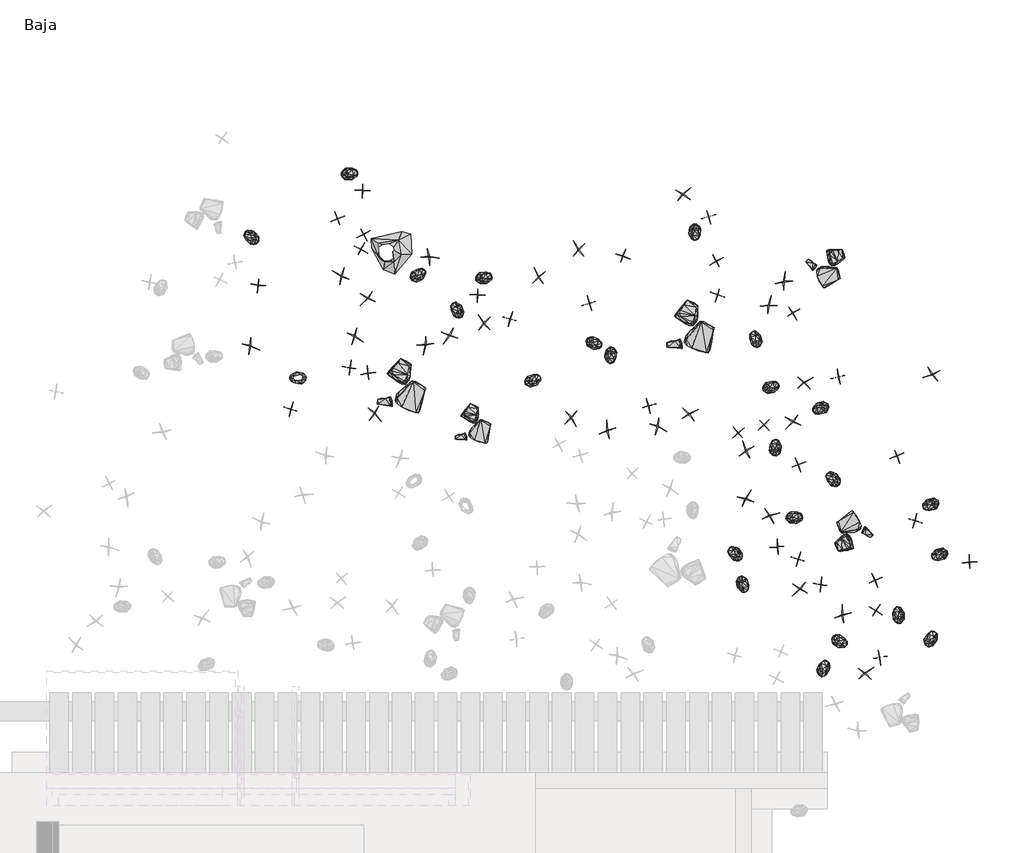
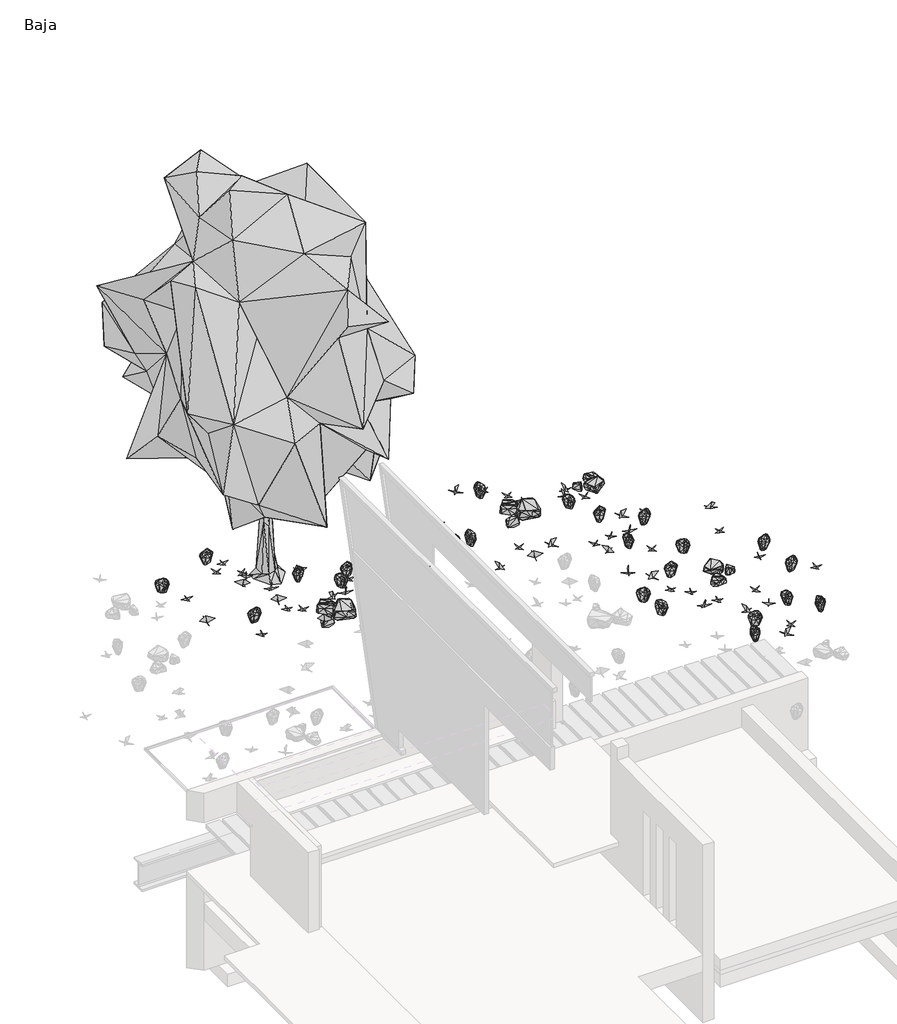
# One storey, part 7 of 7: 87 geographic elements.
"""IFC4 building model written with IfcOpenShell, lengths in millimetres."""

from ifc_helpers import new_model, si_unit, origin, place, context, project, spatial, transform, mapped, element, save
from components import enscape_assetdefinition_bush_025_fern_enscape_5718bf32, enscape_assetdefinition_bush_054_plant_09_version_2_enscape_7b546a12, enscape_assetdefinition_bush_062_plant_09_version_3_enscape_ccf8c8eb, enscape_assetdefinition_deciduous_tree_024_elm_enscape_8f9d8ef3, enscape_assetdefinition_stone_013_group_enscape_516da325, enscape_assetdefinition_stone_013_group_enscape_db9b3e91

model = new_model("IFC4")

# Units and contexts
model_context = context("Model", 3, world=origin())
ifc_project = project(units=[si_unit("LENGTHUNIT", "METRE", prefix="MILLI")], contexts=[model_context])

# Site, building, storey
site = spatial("IfcSite", under=ifc_project)
building = spatial("IfcBuilding", under=site)
storey = spatial("IfcBuildingStorey", under=building, Name="Baja", Elevation=0.0)

# Geographic elements
placement = place(None, origin())
enscape_assetdefinition_bush_025_fern_enscape_shape = enscape_assetdefinition_bush_025_fern_enscape_5718bf32(model_context)
element("IfcGeographicElement", 1, ObjectType="Enscape AssetDefinition - Bush 025 Fern : Enscape AssetDefinition - Bush 025 Fern", at=placement, inside=storey, context=model_context, shape_type="MappedRepresentation", body=[
    mapped(enscape_assetdefinition_bush_025_fern_enscape_shape, transform((220.1328129, 11293.4055328, 583.8238001), x_axis=(-0.8405395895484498, 0.5417501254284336, 0.0), y_axis=(-0.5417501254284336, -0.8405395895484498, 0.0), z_axis=(0.0, 0.0, 1.0))),
])
element("IfcGeographicElement", 2, ObjectType="Enscape AssetDefinition - Bush 025 Fern : Enscape AssetDefinition - Bush 025 Fern", at=placement, inside=storey, context=model_context, shape_type="MappedRepresentation", body=[
    mapped(enscape_assetdefinition_bush_025_fern_enscape_shape, transform((9427.5417328, 8515.3923035, 666.0774946), x_axis=(-0.8784411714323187, -0.47785050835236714, 0.0), y_axis=(0.47785050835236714, -0.8784411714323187, 0.0), z_axis=(0.0, 0.0, 1.0))),
])
element("IfcGeographicElement", 3, ObjectType="Enscape AssetDefinition - Bush 025 Fern : Enscape AssetDefinition - Bush 025 Fern", at=placement, inside=storey, context=model_context, shape_type="MappedRepresentation", body=[
    mapped(enscape_assetdefinition_bush_025_fern_enscape_shape, transform((11229.0744781, 4784.1949463, 257.4731708), x_axis=(0.3776345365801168, 0.9259547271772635, 0.0), y_axis=(-0.9259547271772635, 0.3776345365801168, 0.0), z_axis=(0.0, 0.0, 1.0))),
])
element("IfcGeographicElement", 4, ObjectType="Enscape AssetDefinition - Bush 025 Fern : Enscape AssetDefinition - Bush 025 Fern", at=placement, inside=storey, context=model_context, shape_type="MappedRepresentation", body=[
    mapped(enscape_assetdefinition_bush_025_fern_enscape_shape, transform((11354.5322418, 6146.5396881, 318.8729286), x_axis=(-0.895004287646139, -0.4460575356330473, 0.0), y_axis=(0.4460575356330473, -0.895004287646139, 0.0), z_axis=(0.0, 0.0, 1.0))),
])
element("IfcGeographicElement", 5, ObjectType="Enscape AssetDefinition - Bush 025 Fern : Enscape AssetDefinition - Bush 025 Fern", at=placement, inside=storey, context=model_context, shape_type="MappedRepresentation", body=[
    mapped(enscape_assetdefinition_bush_025_fern_enscape_shape, transform((9749.3457794, 4732.1205139, 441.0730004), x_axis=(0.9416270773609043, -0.33665775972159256, 0.0), y_axis=(0.33665775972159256, 0.9416270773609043, 0.0), z_axis=(0.0, 0.0, 1.0))),
])
element("IfcGeographicElement", 6, ObjectType="Enscape AssetDefinition - Bush 025 Fern : Enscape AssetDefinition - Bush 025 Fern", at=placement, inside=storey, context=model_context, shape_type="MappedRepresentation", body=[
    mapped(enscape_assetdefinition_bush_025_fern_enscape_shape, transform((5772.9167938, 9561.955452, 713.6212587), x_axis=(0.9704376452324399, -0.24135197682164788, 0.0), y_axis=(0.24135197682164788, 0.9704376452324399, 0.0), z_axis=(0.0, 0.0, 1.0))),
])
element("IfcGeographicElement", 7, ObjectType="Enscape AssetDefinition - Bush 025 Fern : Enscape AssetDefinition - Bush 025 Fern", at=placement, inside=storey, context=model_context, shape_type="MappedRepresentation", body=[
    mapped(enscape_assetdefinition_bush_025_fern_enscape_shape, transform((7395.257473, 11361.4759445, 279.3874145), x_axis=(0.12279797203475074, -0.9924316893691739, 0.0), y_axis=(0.9924316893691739, 0.12279797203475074, 0.0), z_axis=(0.0, 0.0, 1.0))),
])
element("IfcGeographicElement", 8, ObjectType="Enscape AssetDefinition - Bush 025 Fern : Enscape AssetDefinition - Bush 025 Fern", at=placement, inside=storey, context=model_context, shape_type="MappedRepresentation", body=[
    mapped(enscape_assetdefinition_bush_025_fern_enscape_shape, transform((8641.3593292, 8854.5331955, 814.4116402), x_axis=(0.9016803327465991, 0.43240325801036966, 0.0), y_axis=(-0.43240325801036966, 0.9016803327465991, 0.0), z_axis=(0.0, 0.0, 1.0))),
])
element("IfcGeographicElement", 9, ObjectType="Enscape AssetDefinition - Bush 025 Fern : Enscape AssetDefinition - Bush 025 Fern", at=placement, inside=storey, context=model_context, shape_type="MappedRepresentation", body=[
    mapped(enscape_assetdefinition_bush_025_fern_enscape_shape, transform((3994.9777126, 10624.2351532, 51.6854525), x_axis=(0.952647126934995, 0.3040780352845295, 0.0), y_axis=(-0.3040780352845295, 0.952647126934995, 0.0), z_axis=(0.0, 0.0, 1.0))),
])
element("IfcGeographicElement", 10, ObjectType="Enscape AssetDefinition - Bush 025 Fern : Enscape AssetDefinition - Bush 025 Fern", at=placement, inside=storey, context=model_context, shape_type="MappedRepresentation", body=[
    mapped(enscape_assetdefinition_bush_025_fern_enscape_shape, transform((1818.2258606, 12308.1331253, 97.2424746), x_axis=(0.9770707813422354, 0.21291474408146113, 0.0), y_axis=(-0.21291474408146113, 0.9770707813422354, 0.0), z_axis=(0.0, 0.0, 1.0))),
])
element("IfcGeographicElement", 11, ObjectType="Enscape AssetDefinition - Bush 025 Fern : Enscape AssetDefinition - Bush 025 Fern", at=placement, inside=storey, context=model_context, shape_type="MappedRepresentation", body=[
    mapped(enscape_assetdefinition_bush_025_fern_enscape_shape, transform((6035.5167389, 9367.2580719, 836.0227346), x_axis=(0.05514133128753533, -0.9984785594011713, 0.0), y_axis=(0.9984785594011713, 0.05514133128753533, 0.0), z_axis=(0.0, 0.0, 1.0))),
])
element("IfcGeographicElement", 12, ObjectType="Enscape AssetDefinition - Bush 025 Fern : Enscape AssetDefinition - Bush 025 Fern", at=placement, inside=storey, context=model_context, shape_type="MappedRepresentation", body=[
    mapped(enscape_assetdefinition_bush_025_fern_enscape_shape, transform((9018.5718536, 6742.0229912, 647.1215487), x_axis=(0.9835431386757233, 0.18067344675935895, 0.0), y_axis=(-0.18067344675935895, 0.9835431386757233, 0.0), z_axis=(0.0, 0.0, 1.0))),
])
element("IfcGeographicElement", 13, ObjectType="Enscape AssetDefinition - Bush 025 Fern : Enscape AssetDefinition - Bush 025 Fern", at=placement, inside=storey, context=model_context, shape_type="MappedRepresentation", body=[
    mapped(enscape_assetdefinition_bush_025_fern_enscape_shape, transform((9636.7206573, 7376.8148422, 605.1700711), x_axis=(-0.7810224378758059, 0.6245029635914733, 0.0), y_axis=(-0.6245029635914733, -0.7810224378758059, 0.0), z_axis=(0.0, 0.0, 1.0))),
])
element("IfcGeographicElement", 14, ObjectType="Enscape AssetDefinition - Bush 025 Fern : Enscape AssetDefinition - Bush 025 Fern", at=placement, inside=storey, context=model_context, shape_type="MappedRepresentation", body=[
    mapped(enscape_assetdefinition_bush_025_fern_enscape_shape, transform((10700.0789642, 5173.2621193, 346.2161422), x_axis=(-0.26639460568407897, 0.9638640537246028, 0.0), y_axis=(-0.9638640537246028, -0.26639460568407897, 0.0), z_axis=(0.0, 0.0, 1.0))),
])
element("IfcGeographicElement", 15, ObjectType="Enscape AssetDefinition - Bush 025 Fern : Enscape AssetDefinition - Bush 025 Fern", at=placement, inside=storey, context=model_context, shape_type="MappedRepresentation", body=[
    mapped(enscape_assetdefinition_bush_025_fern_enscape_shape, transform((8387.0029449, 9643.0416107, 728.2055616), x_axis=(-0.48038722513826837, 0.8770565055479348, 0.0), y_axis=(-0.8770565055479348, -0.48038722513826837, 0.0), z_axis=(0.0, 0.0, 1.0))),
])
element("IfcGeographicElement", 16, ObjectType="Enscape AssetDefinition - Bush 025 Fern : Enscape AssetDefinition - Bush 025 Fern", at=placement, inside=storey, context=model_context, shape_type="MappedRepresentation", body=[
    mapped(enscape_assetdefinition_bush_025_fern_enscape_shape, transform((4785.9745026, 8966.6624069, 789.6940112), x_axis=(0.8663648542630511, 0.499411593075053, 0.0), y_axis=(-0.499411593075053, 0.8663648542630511, 0.0), z_axis=(0.0, 0.0, 1.0))),
])
element("IfcGeographicElement", 17, ObjectType="Enscape AssetDefinition - Bush 025 Fern : Enscape AssetDefinition - Bush 025 Fern", at=placement, inside=storey, context=model_context, shape_type="MappedRepresentation", body=[
    mapped(enscape_assetdefinition_bush_025_fern_enscape_shape, transform((3551.8057346, 10113.2421494, 259.1606975), x_axis=(-0.5973290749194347, 0.8019962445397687, 0.0), y_axis=(-0.8019962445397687, -0.5973290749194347, 0.0), z_axis=(0.0, 0.0, 1.0))),
])
element("IfcGeographicElement", 18, ObjectType="Enscape AssetDefinition - Bush 025 Fern : Enscape AssetDefinition - Bush 025 Fern", at=placement, inside=storey, context=model_context, shape_type="MappedRepresentation", body=[
    mapped(enscape_assetdefinition_bush_025_fern_enscape_shape, transform((9491.850853, 4306.0994148, 449.3893981), x_axis=(0.2594705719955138, 0.9657510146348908, 0.0), y_axis=(-0.9657510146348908, 0.2594705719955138, 0.0), z_axis=(0.0, 0.0, 1.0))),
])
element("IfcGeographicElement", 19, ObjectType="Enscape AssetDefinition - Bush 025 Fern : Enscape AssetDefinition - Bush 025 Fern", at=placement, inside=storey, context=model_context, shape_type="MappedRepresentation", body=[
    mapped(enscape_assetdefinition_bush_025_fern_enscape_shape, transform((2930.8490753, 10674.8609543, 295.1474786), x_axis=(0.7537706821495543, 0.657137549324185, 0.0), y_axis=(-0.657137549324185, 0.7537706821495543, 0.0), z_axis=(0.0, 0.0, 1.0))),
])
element("IfcGeographicElement", 20, ObjectType="Enscape AssetDefinition - Bush 025 Fern : Enscape AssetDefinition - Bush 025 Fern", at=placement, inside=storey, context=model_context, shape_type="MappedRepresentation", body=[
    mapped(enscape_assetdefinition_bush_025_fern_enscape_shape, transform((11210.3099823, 6956.7184448, 382.9751611), x_axis=(-0.8839982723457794, -0.4674901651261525, 0.0), y_axis=(0.4674901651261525, -0.8839982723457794, 0.0), z_axis=(0.0, 0.0, 1.0))),
])
element("IfcGeographicElement", 21, ObjectType="Enscape AssetDefinition - Bush 025 Fern : Enscape AssetDefinition - Bush 025 Fern", at=placement, inside=storey, context=model_context, shape_type="MappedRepresentation", body=[
    mapped(enscape_assetdefinition_bush_025_fern_enscape_shape, transform((8708.2881927, 7883.6064339, 750.9428859), x_axis=(-0.06104136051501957, 0.9981352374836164, 0.0), y_axis=(-0.9981352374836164, -0.06104136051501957, 0.0), z_axis=(0.0, 0.0, 1.0))),
])
element("IfcGeographicElement", 22, ObjectType="Enscape AssetDefinition - Bush 025 Fern : Enscape AssetDefinition - Bush 025 Fern", at=placement, inside=storey, context=model_context, shape_type="MappedRepresentation", body=[
    mapped(enscape_assetdefinition_bush_025_fern_enscape_shape, transform((968.3990479, 9008.2073212, 999.9998808), x_axis=(-0.9919673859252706, -0.12649389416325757, 0.0), y_axis=(0.12649389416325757, -0.9919673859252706, 0.0), z_axis=(0.0, 0.0, 1.0))),
])
element("IfcGeographicElement", 23, ObjectType="Enscape AssetDefinition - Bush 025 Fern : Enscape AssetDefinition - Bush 025 Fern", at=placement, inside=storey, context=model_context, shape_type="MappedRepresentation", body=[
    mapped(enscape_assetdefinition_bush_025_fern_enscape_shape, transform((8174.6454239, 5653.7284851, 691.8329), x_axis=(0.4763455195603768, -0.8792581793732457, 0.0), y_axis=(0.8792581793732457, 0.4763455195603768, 0.0), z_axis=(0.0, 0.0, 1.0))),
])
element("IfcGeographicElement", 24, ObjectType="Enscape AssetDefinition - Bush 025 Fern : Enscape AssetDefinition - Bush 025 Fern", at=placement, inside=storey, context=model_context, shape_type="MappedRepresentation", body=[
    mapped(enscape_assetdefinition_bush_025_fern_enscape_shape, transform((8050.8556366, 6168.050766, 736.5906835), x_axis=(-0.7989668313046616, 0.6013750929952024, 0.0), y_axis=(-0.6013750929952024, -0.7989668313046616, 0.0), z_axis=(0.0, 0.0, 1.0))),
])
enscape_assetdefinition_bush_054_plant_09_version_2_enscape_shape = enscape_assetdefinition_bush_054_plant_09_version_2_enscape_7b546a12(model_context)
element("IfcGeographicElement", 25, ObjectType="Enscape AssetDefinition - Bush 054 Plant 09, Version 2 : Enscape AssetDefinition - Bush 054 Plant 09, Version 2", at=placement, inside=storey, context=model_context, shape_type="MappedRepresentation", body=[
    mapped(enscape_assetdefinition_bush_054_plant_09_version_2_enscape_shape, transform((2026.4930725, 12039.3590927, 132.2808862), x_axis=(-0.01600050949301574, 0.9998719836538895, 0.0), y_axis=(-0.9998719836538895, -0.01600050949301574, 0.0), z_axis=(0.0, 0.0, 1.0))),
])
element("IfcGeographicElement", 26, ObjectType="Enscape AssetDefinition - Bush 054 Plant 09, Version 2 : Enscape AssetDefinition - Bush 054 Plant 09, Version 2", at=placement, inside=storey, context=model_context, shape_type="MappedRepresentation", body=[
    mapped(enscape_assetdefinition_bush_054_plant_09_version_2_enscape_shape, transform((6652.7686119, 8559.5407486, 999.9999404), x_axis=(-0.9509313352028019, -0.3094019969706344, 0.0), y_axis=(0.3094019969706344, -0.9509313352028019, 0.0), z_axis=(0.0, 0.0, 1.0))),
])
element("IfcGeographicElement", 27, ObjectType="Enscape AssetDefinition - Bush 054 Plant 09, Version 2 : Enscape AssetDefinition - Bush 054 Plant 09, Version 2", at=placement, inside=storey, context=model_context, shape_type="MappedRepresentation", body=[
    mapped(enscape_assetdefinition_bush_054_plant_09_version_2_enscape_shape, transform((1994.5297241, 11093.4152603, 405.9939384), x_axis=(-0.4157669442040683, -0.909471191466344, 0.0), y_axis=(0.909471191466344, -0.4157669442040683, 0.0), z_axis=(0.0, 0.0, 1.0))),
])
element("IfcGeographicElement", 28, ObjectType="Enscape AssetDefinition - Bush 054 Plant 09, Version 2 : Enscape AssetDefinition - Bush 054 Plant 09, Version 2", at=placement, inside=storey, context=model_context, shape_type="MappedRepresentation", body=[
    mapped(enscape_assetdefinition_bush_054_plant_09_version_2_enscape_shape, transform((10330.7361603, 5240.5452728, 396.5933323), x_axis=(-0.4859771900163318, -0.8739714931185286, 0.0), y_axis=(0.8739714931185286, -0.4859771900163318, 0.0), z_axis=(0.0, 0.0, 1.0))),
])
element("IfcGeographicElement", 29, ObjectType="Enscape AssetDefinition - Bush 054 Plant 09, Version 2 : Enscape AssetDefinition - Bush 054 Plant 09, Version 2", at=placement, inside=storey, context=model_context, shape_type="MappedRepresentation", body=[
    mapped(enscape_assetdefinition_bush_054_plant_09_version_2_enscape_shape, transform((4407.6213837, 9956.6755295, 326.7164826), x_axis=(0.9749458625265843, -0.22244227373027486, 0.0), y_axis=(0.22244227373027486, 0.9749458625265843, 0.0), z_axis=(0.0, 0.0, 1.0))),
])
element("IfcGeographicElement", 30, ObjectType="Enscape AssetDefinition - Bush 054 Plant 09, Version 2 : Enscape AssetDefinition - Bush 054 Plant 09, Version 2", at=placement, inside=storey, context=model_context, shape_type="MappedRepresentation", body=[
    mapped(enscape_assetdefinition_bush_054_plant_09_version_2_enscape_shape, transform((8096.075058, 8115.691185, 841.2796855), x_axis=(0.6934244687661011, -0.7205293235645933, 0.0), y_axis=(0.7205293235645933, 0.6934244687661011, 0.0), z_axis=(0.0, 0.0, 1.0))),
])
element("IfcGeographicElement", 31, ObjectType="Enscape AssetDefinition - Bush 054 Plant 09, Version 2 : Enscape AssetDefinition - Bush 054 Plant 09, Version 2", at=placement, inside=storey, context=model_context, shape_type="MappedRepresentation", body=[
    mapped(enscape_assetdefinition_bush_054_plant_09_version_2_enscape_shape, transform((9072.4544525, 6064.6076202, 601.9331813), x_axis=(0.9710745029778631, -0.23877669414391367, 0.0), y_axis=(0.23877669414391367, 0.9710745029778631, 0.0), z_axis=(0.0, 0.0, 1.0))),
])
element("IfcGeographicElement", 32, ObjectType="Enscape AssetDefinition - Bush 054 Plant 09, Version 2 : Enscape AssetDefinition - Bush 054 Plant 09, Version 2", at=placement, inside=storey, context=model_context, shape_type="MappedRepresentation", body=[
    mapped(enscape_assetdefinition_bush_054_plant_09_version_2_enscape_shape, transform((10397.2644806, 4481.9431305, 345.2092409), x_axis=(-0.974047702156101, -0.22634282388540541, 0.0), y_axis=(0.22634282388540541, -0.974047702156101, 0.0), z_axis=(0.0, 0.0, 1.0))),
])
element("IfcGeographicElement", 33, ObjectType="Enscape AssetDefinition - Bush 054 Plant 09, Version 2 : Enscape AssetDefinition - Bush 054 Plant 09, Version 2", at=placement, inside=storey, context=model_context, shape_type="MappedRepresentation", body=[
    mapped(enscape_assetdefinition_bush_054_plant_09_version_2_enscape_shape, transform((3889.0476227, 10345.7765579, 132.4433684), x_axis=(4.1842463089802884e-05, 0.9999999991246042, 0.0), y_axis=(-0.9999999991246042, 4.1842463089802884e-05, 0.0), z_axis=(0.0, 0.0, 1.0))),
])
element("IfcGeographicElement", 34, ObjectType="Enscape AssetDefinition - Bush 054 Plant 09, Version 2 : Enscape AssetDefinition - Bush 054 Plant 09, Version 2", at=placement, inside=storey, context=model_context, shape_type="MappedRepresentation", body=[
    mapped(enscape_assetdefinition_bush_054_plant_09_version_2_enscape_shape, transform((11846.7884064, 6025.7663727, 249.9682307), x_axis=(0.10038709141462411, -0.9949484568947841, 0.0), y_axis=(0.9949484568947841, 0.10038709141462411, 0.0), z_axis=(0.0, 0.0, 1.0))),
])
element("IfcGeographicElement", 35, ObjectType="Enscape AssetDefinition - Bush 054 Plant 09, Version 2 : Enscape AssetDefinition - Bush 054 Plant 09, Version 2", at=placement, inside=storey, context=model_context, shape_type="MappedRepresentation", body=[
    mapped(enscape_assetdefinition_bush_054_plant_09_version_2_enscape_shape, transform((8734.9758148, 6267.3358917, 655.970037), x_axis=(0.9927741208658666, 0.11999810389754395, 0.0), y_axis=(-0.11999810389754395, 0.9927741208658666, 0.0), z_axis=(0.0, 0.0, 1.0))),
])
element("IfcGeographicElement", 36, ObjectType="Enscape AssetDefinition - Bush 054 Plant 09, Version 2 : Enscape AssetDefinition - Bush 054 Plant 09, Version 2", at=placement, inside=storey, context=model_context, shape_type="MappedRepresentation", body=[
    mapped(enscape_assetdefinition_bush_054_plant_09_version_2_enscape_shape, transform((6233.8275909, 10982.6440811, 243.5685396), x_axis=(-0.2827353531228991, -0.959197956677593, 0.0), y_axis=(0.959197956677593, -0.2827353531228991, 0.0), z_axis=(0.0, 0.0, 1.0))),
])
element("IfcGeographicElement", 37, ObjectType="Enscape AssetDefinition - Bush 054 Plant 09, Version 2 : Enscape AssetDefinition - Bush 054 Plant 09, Version 2", at=placement, inside=storey, context=model_context, shape_type="MappedRepresentation", body=[
    mapped(enscape_assetdefinition_bush_054_plant_09_version_2_enscape_shape, transform((2043.5256958, 11331.1777115, 329.1426897), x_axis=(-0.5219727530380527, 0.8529621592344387, 0.0), y_axis=(-0.8529621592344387, -0.5219727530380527, 0.0), z_axis=(0.0, 0.0, 1.0))),
])
element("IfcGeographicElement", 38, ObjectType="Enscape AssetDefinition - Bush 054 Plant 09, Version 2 : Enscape AssetDefinition - Bush 054 Plant 09, Version 2", at=placement, inside=storey, context=model_context, shape_type="MappedRepresentation", body=[
    mapped(enscape_assetdefinition_bush_054_plant_09_version_2_enscape_shape, transform((1612.1063232, 11587.0428085, 341.6267633), x_axis=(0.42051440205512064, -0.9072858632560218, 0.0), y_axis=(0.9072858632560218, 0.42051440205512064, 0.0), z_axis=(0.0, 0.0, 1.0))),
])
element("IfcGeographicElement", 39, ObjectType="Enscape AssetDefinition - Bush 054 Plant 09, Version 2 : Enscape AssetDefinition - Bush 054 Plant 09, Version 2", at=placement, inside=storey, context=model_context, shape_type="MappedRepresentation", body=[
    mapped(enscape_assetdefinition_bush_054_plant_09_version_2_enscape_shape, transform((9725.4390717, 9021.0523605, 477.8280854), x_axis=(0.962913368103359, 0.26981075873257, 0.0), y_axis=(-0.26981075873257, 0.962913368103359, 0.0), z_axis=(0.0, 0.0, 1.0))),
])
element("IfcGeographicElement", 40, ObjectType="Enscape AssetDefinition - Bush 054 Plant 09, Version 2 : Enscape AssetDefinition - Bush 054 Plant 09, Version 2", at=placement, inside=storey, context=model_context, shape_type="MappedRepresentation", body=[
    mapped(enscape_assetdefinition_bush_054_plant_09_version_2_enscape_shape, transform((7744.0085411, 10897.4075317, 416.4552689), x_axis=(0.5362581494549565, -0.8440540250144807, 0.0), y_axis=(0.8440540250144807, 0.5362581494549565, 0.0), z_axis=(0.0, 0.0, 1.0))),
])
element("IfcGeographicElement", 41, ObjectType="Enscape AssetDefinition - Bush 054 Plant 09, Version 2 : Enscape AssetDefinition - Bush 054 Plant 09, Version 2", at=placement, inside=storey, context=model_context, shape_type="MappedRepresentation", body=[
    mapped(enscape_assetdefinition_bush_054_plant_09_version_2_enscape_shape, transform((859.5542908, 8496.8891144, 999.9998808), x_axis=(0.9771434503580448, -0.21258099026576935, 0.0), y_axis=(0.21258099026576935, 0.9771434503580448, 0.0), z_axis=(0.0, 0.0, 1.0))),
])
element("IfcGeographicElement", 42, ObjectType="Enscape AssetDefinition - Bush 054 Plant 09, Version 2 : Enscape AssetDefinition - Bush 054 Plant 09, Version 2", at=placement, inside=storey, context=model_context, shape_type="MappedRepresentation", body=[
    mapped(enscape_assetdefinition_bush_054_plant_09_version_2_enscape_shape, transform((336.5935981, 10504.3020248, 810.2988601), x_axis=(0.05592477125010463, 0.9984349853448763, 0.0), y_axis=(-0.9984349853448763, 0.05592477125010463, 0.0), z_axis=(0.0, 0.0, 1.0))),
])
element("IfcGeographicElement", 43, ObjectType="Enscape AssetDefinition - Bush 054 Plant 09, Version 2 : Enscape AssetDefinition - Bush 054 Plant 09, Version 2", at=placement, inside=storey, context=model_context, shape_type="MappedRepresentation", body=[
    mapped(enscape_assetdefinition_bush_054_plant_09_version_2_enscape_shape, transform((10967.5693512, 6696.7639923, 398.8438249), x_axis=(-0.9804457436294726, 0.19678959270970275, 0.0), y_axis=(-0.19678959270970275, -0.9804457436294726, 0.0), z_axis=(0.0, 0.0, 1.0))),
])
element("IfcGeographicElement", 44, ObjectType="Enscape AssetDefinition - Bush 054 Plant 09, Version 2 : Enscape AssetDefinition - Bush 054 Plant 09, Version 2", at=placement, inside=storey, context=model_context, shape_type="MappedRepresentation", body=[
    mapped(enscape_assetdefinition_bush_054_plant_09_version_2_enscape_shape, transform((10678.3618927, 7739.4752502, 472.1381664), x_axis=(-0.40059887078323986, 0.9162535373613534, 0.0), y_axis=(-0.9162535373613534, -0.40059887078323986, 0.0), z_axis=(0.0, 0.0, 1.0))),
])
element("IfcGeographicElement", 45, ObjectType="Enscape AssetDefinition - Bush 054 Plant 09, Version 2 : Enscape AssetDefinition - Bush 054 Plant 09, Version 2", at=placement, inside=storey, context=model_context, shape_type="MappedRepresentation", body=[
    mapped(enscape_assetdefinition_bush_054_plant_09_version_2_enscape_shape, transform((5688.9476776, 10210.6952667, 437.5537038), x_axis=(0.9391104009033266, 0.34361556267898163, 0.0), y_axis=(-0.34361556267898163, 0.9391104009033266, 0.0), z_axis=(0.0, 0.0, 1.0))),
])
element("IfcGeographicElement", 46, ObjectType="Enscape AssetDefinition - Bush 054 Plant 09, Version 2 : Enscape AssetDefinition - Bush 054 Plant 09, Version 2", at=placement, inside=storey, context=model_context, shape_type="MappedRepresentation", body=[
    mapped(enscape_assetdefinition_bush_054_plant_09_version_2_enscape_shape, transform((9437.9549026, 5656.375885, 532.7159762), x_axis=(0.9981202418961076, -0.061286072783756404, 0.0), y_axis=(0.061286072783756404, 0.9981202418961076, 0.0), z_axis=(0.0, 0.0, 1.0))),
])
element("IfcGeographicElement", 47, ObjectType="Enscape AssetDefinition - Bush 054 Plant 09, Version 2 : Enscape AssetDefinition - Bush 054 Plant 09, Version 2", at=placement, inside=storey, context=model_context, shape_type="MappedRepresentation", body=[
    mapped(enscape_assetdefinition_bush_054_plant_09_version_2_enscape_shape, transform((8988.6035919, 10060.4104996, 472.270906), x_axis=(-0.8314307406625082, -0.5556284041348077, 0.0), y_axis=(0.5556284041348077, -0.8314307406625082, 0.0), z_axis=(0.0, 0.0, 1.0))),
])
element("IfcGeographicElement", 48, ObjectType="Enscape AssetDefinition - Bush 054 Plant 09, Version 2 : Enscape AssetDefinition - Bush 054 Plant 09, Version 2", at=placement, inside=storey, context=model_context, shape_type="MappedRepresentation", body=[
    mapped(enscape_assetdefinition_bush_054_plant_09_version_2_enscape_shape, transform((1813.5566711, 9170.1478958, 861.3690138), x_axis=(0.997037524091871, -0.07691667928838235, 0.0), y_axis=(0.07691667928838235, 0.997037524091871, 0.0), z_axis=(0.0, 0.0, 1.0))),
])
element("IfcGeographicElement", 49, ObjectType="Enscape AssetDefinition - Bush 054 Plant 09, Version 2 : Enscape AssetDefinition - Bush 054 Plant 09, Version 2", at=placement, inside=storey, context=model_context, shape_type="MappedRepresentation", body=[
    mapped(enscape_assetdefinition_bush_054_plant_09_version_2_enscape_shape, transform((2108.9305878, 9082.0465088, 808.5536957), x_axis=(0.16273891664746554, -0.9866691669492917, 0.0), y_axis=(0.9866691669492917, 0.16273891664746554, 0.0), z_axis=(0.0, 0.0, 1.0))),
])
element("IfcGeographicElement", 50, ObjectType="Enscape AssetDefinition - Bush 054 Plant 09, Version 2 : Enscape AssetDefinition - Bush 054 Plant 09, Version 2", at=placement, inside=storey, context=model_context, shape_type="MappedRepresentation", body=[
    mapped(enscape_assetdefinition_bush_054_plant_09_version_2_enscape_shape, transform((7771.3265419, 10345.8881378, 637.1003389), x_axis=(0.2631869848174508, 0.9647448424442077, 0.0), y_axis=(-0.9647448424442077, 0.2631869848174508, 0.0), z_axis=(0.0, 0.0, 1.0))),
])
element("IfcGeographicElement", 51, ObjectType="Enscape AssetDefinition - Bush 054 Plant 09, Version 2 : Enscape AssetDefinition - Bush 054 Plant 09, Version 2", at=placement, inside=storey, context=model_context, shape_type="MappedRepresentation", body=[
    mapped(enscape_assetdefinition_bush_054_plant_09_version_2_enscape_shape, transform((7627.7756691, 11617.1293259, 140.5382752), x_axis=(-0.3168847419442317, 0.9484640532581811, 0.0), y_axis=(-0.9484640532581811, -0.3168847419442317, 0.0), z_axis=(0.0, 0.0, 1.0))),
])
element("IfcGeographicElement", 52, ObjectType="Enscape AssetDefinition - Bush 054 Plant 09, Version 2 : Enscape AssetDefinition - Bush 054 Plant 09, Version 2", at=placement, inside=storey, context=model_context, shape_type="MappedRepresentation", body=[
    mapped(enscape_assetdefinition_bush_054_plant_09_version_2_enscape_shape, transform((8525.4802704, 8246.4990616, 794.557929), x_axis=(-0.7239908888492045, 0.6898095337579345, 0.0), y_axis=(-0.6898095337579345, -0.7239908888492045, 0.0), z_axis=(0.0, 0.0, 1.0))),
])
element("IfcGeographicElement", 53, ObjectType="Enscape AssetDefinition - Bush 054 Plant 09, Version 2 : Enscape AssetDefinition - Bush 054 Plant 09, Version 2", at=placement, inside=storey, context=model_context, shape_type="MappedRepresentation", body=[
    mapped(enscape_assetdefinition_bush_054_plant_09_version_2_enscape_shape, transform((10318.6168671, 5733.0260277, 426.0343909), x_axis=(-0.9000136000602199, -0.4358618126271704, 0.0), y_axis=(0.4358618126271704, -0.9000136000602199, 0.0), z_axis=(0.0, 0.0, 1.0))),
])
element("IfcGeographicElement", 54, ObjectType="Enscape AssetDefinition - Bush 054 Plant 09, Version 2 : Enscape AssetDefinition - Bush 054 Plant 09, Version 2", at=placement, inside=storey, context=model_context, shape_type="MappedRepresentation", body=[
    mapped(enscape_assetdefinition_bush_054_plant_09_version_2_enscape_shape, transform((9076.543808, 7606.0676575, 688.7859106), x_axis=(-0.9171267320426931, -0.3985957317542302, 0.0), y_axis=(0.3985957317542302, -0.9171267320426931, 0.0), z_axis=(0.0, 0.0, 1.0))),
])
enscape_assetdefinition_bush_062_plant_09_version_3_enscape_shape = enscape_assetdefinition_bush_062_plant_09_version_3_enscape_ccf8c8eb(model_context)
element("IfcGeographicElement", 55, ObjectType="Enscape AssetDefinition - Bush 062 Plant 09, Version 3 : Enscape AssetDefinition - Bush 062 Plant 09, Version 3", at=placement, inside=storey, context=model_context, shape_type="MappedRepresentation", body=[
    mapped(enscape_assetdefinition_bush_062_plant_09_version_3_enscape_shape, transform((7313.4479523, 8428.1101227, 925.167501), x_axis=(0.7310181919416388, -0.6823579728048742, 0.0), y_axis=(0.6823579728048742, 0.7310181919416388, 0.0), z_axis=(0.0, 0.0, 1.0))),
])
element("IfcGeographicElement", 56, ObjectType="Enscape AssetDefinition - Bush 062 Plant 09, Version 3 : Enscape AssetDefinition - Bush 062 Plant 09, Version 3", at=placement, inside=storey, context=model_context, shape_type="MappedRepresentation", body=[
    mapped(enscape_assetdefinition_bush_062_plant_09_version_3_enscape_shape, transform((2227.0262241, 8425.2281189, 911.3663435), x_axis=(-0.4534554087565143, -0.8912789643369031, 0.0), y_axis=(0.8912789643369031, -0.4534554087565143, 0.0), z_axis=(0.0, 0.0, 1.0))),
])
element("IfcGeographicElement", 57, ObjectType="Enscape AssetDefinition - Bush 062 Plant 09, Version 3 : Enscape AssetDefinition - Bush 062 Plant 09, Version 3", at=placement, inside=storey, context=model_context, shape_type="MappedRepresentation", body=[
    mapped(enscape_assetdefinition_bush_062_plant_09_version_3_enscape_shape, transform((8838.4952545, 10575.0923157, 384.5335245), x_axis=(0.9681846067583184, 0.2502370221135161, 0.0), y_axis=(-0.2502370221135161, 0.9681846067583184, 0.0), z_axis=(0.0, 0.0, 1.0))),
])
element("IfcGeographicElement", 58, ObjectType="Enscape AssetDefinition - Bush 062 Plant 09, Version 3 : Enscape AssetDefinition - Bush 062 Plant 09, Version 3", at=placement, inside=storey, context=model_context, shape_type="MappedRepresentation", body=[
    mapped(enscape_assetdefinition_bush_062_plant_09_version_3_enscape_shape, transform((213.26828, 9521.3623047, 927.5824428), x_axis=(-0.010435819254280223, -0.9999455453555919, 0.0), y_axis=(0.9999455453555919, -0.010435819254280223, 0.0), z_axis=(0.0, 0.0, 1.0))),
])
element("IfcGeographicElement", 59, ObjectType="Enscape AssetDefinition - Bush 062 Plant 09, Version 3 : Enscape AssetDefinition - Bush 062 Plant 09, Version 3", at=placement, inside=storey, context=model_context, shape_type="MappedRepresentation", body=[
    mapped(enscape_assetdefinition_bush_062_plant_09_version_3_enscape_shape, transform((4863.69133, 10649.1708755, 122.9373217), x_axis=(0.6667830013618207, 0.7452519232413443, 0.0), y_axis=(-0.7452519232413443, 0.6667830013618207, 0.0), z_axis=(0.0, 0.0, 1.0))),
])
element("IfcGeographicElement", 60, ObjectType="Enscape AssetDefinition - Bush 062 Plant 09, Version 3 : Enscape AssetDefinition - Bush 062 Plant 09, Version 3", at=placement, inside=storey, context=model_context, shape_type="MappedRepresentation", body=[
    mapped(enscape_assetdefinition_bush_062_plant_09_version_3_enscape_shape, transform((10161.8518829, 4230.2627563, 360.6230021), x_axis=(0.8244267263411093, -0.5659687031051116, 0.0), y_axis=(0.5659687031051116, 0.8244267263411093, 0.0), z_axis=(0.0, 0.0, 1.0))),
])
element("IfcGeographicElement", 61, ObjectType="Enscape AssetDefinition - Bush 062 Plant 09, Version 3 : Enscape AssetDefinition - Bush 062 Plant 09, Version 3", at=placement, inside=storey, context=model_context, shape_type="MappedRepresentation", body=[
    mapped(enscape_assetdefinition_bush_062_plant_09_version_3_enscape_shape, transform((3041.135788, 9531.50177, 496.8237281), x_axis=(-0.981404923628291, -0.19194888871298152, 0.0), y_axis=(0.19194888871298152, -0.981404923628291, 0.0), z_axis=(0.0, 0.0, 1.0))),
])
element("IfcGeographicElement", 62, ObjectType="Enscape AssetDefinition - Bush 062 Plant 09, Version 3 : Enscape AssetDefinition - Bush 062 Plant 09, Version 3", at=placement, inside=storey, context=model_context, shape_type="MappedRepresentation", body=[
    mapped(enscape_assetdefinition_bush_062_plant_09_version_3_enscape_shape, transform((9788.8011932, 5180.9864044, 461.5399837), x_axis=(0.9199700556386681, 0.3919886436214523, 0.0), y_axis=(-0.3919886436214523, 0.9199700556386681, 0.0), z_axis=(0.0, 0.0, 1.0))),
])
element("IfcGeographicElement", 63, ObjectType="Enscape AssetDefinition - Bush 062 Plant 09, Version 3 : Enscape AssetDefinition - Bush 062 Plant 09, Version 3", at=placement, inside=storey, context=model_context, shape_type="MappedRepresentation", body=[
    mapped(enscape_assetdefinition_bush_062_plant_09_version_3_enscape_shape, transform((3978.6396027, 9899.5094299, 278.3461213), x_axis=(0.566838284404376, 0.8238290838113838, 0.0), y_axis=(-0.8238290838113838, 0.566838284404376, 0.0), z_axis=(0.0, 0.0, 1.0))),
])
element("IfcGeographicElement", 64, ObjectType="Enscape AssetDefinition - Bush 062 Plant 09, Version 3 : Enscape AssetDefinition - Bush 062 Plant 09, Version 3", at=placement, inside=storey, context=model_context, shape_type="MappedRepresentation", body=[
    mapped(enscape_assetdefinition_bush_062_plant_09_version_3_enscape_shape, transform((8984.1327667, 8289.1759872, 739.1540408), x_axis=(-0.926807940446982, 0.37553567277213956, 0.0), y_axis=(-0.37553567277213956, -0.926807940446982, 0.0), z_axis=(0.0, 0.0, 1.0))),
])
element("IfcGeographicElement", 65, ObjectType="Enscape AssetDefinition - Bush 062 Plant 09, Version 3 : Enscape AssetDefinition - Bush 062 Plant 09, Version 3", at=placement, inside=storey, context=model_context, shape_type="MappedRepresentation", body=[
    mapped(enscape_assetdefinition_bush_062_plant_09_version_3_enscape_shape, transform((3425.6267548, 9683.4344864, 374.9178648), x_axis=(-0.9700074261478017, 0.24307528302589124, 0.0), y_axis=(-0.24307528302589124, -0.9700074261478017, 0.0), z_axis=(0.0, 0.0, 1.0))),
])
element("IfcGeographicElement", 66, ObjectType="Enscape AssetDefinition - Bush 062 Plant 09, Version 3 : Enscape AssetDefinition - Bush 062 Plant 09, Version 3", at=placement, inside=storey, context=model_context, shape_type="MappedRepresentation", body=[
    mapped(enscape_assetdefinition_bush_062_plant_09_version_3_enscape_shape, transform((5510.7746124, 11090.0287628, 52.6367426), x_axis=(0.6063553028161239, 0.7951938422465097, 0.0), y_axis=(-0.7951938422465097, 0.6063553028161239, 0.0), z_axis=(0.0, 0.0, 1.0))),
])
element("IfcGeographicElement", 67, ObjectType="Enscape AssetDefinition - Bush 062 Plant 09, Version 3 : Enscape AssetDefinition - Bush 062 Plant 09, Version 3", at=placement, inside=storey, context=model_context, shape_type="MappedRepresentation", body=[
    mapped(enscape_assetdefinition_bush_062_plant_09_version_3_enscape_shape, transform((3109.4379425, 10969.6302414, 193.8251257), x_axis=(0.26121599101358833, -0.9652803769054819, 0.0), y_axis=(0.9652803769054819, 0.26121599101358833, 0.0), z_axis=(0.0, 0.0, 1.0))),
])
element("IfcGeographicElement", 68, ObjectType="Enscape AssetDefinition - Bush 062 Plant 09, Version 3 : Enscape AssetDefinition - Bush 062 Plant 09, Version 3", at=placement, inside=storey, context=model_context, shape_type="MappedRepresentation", body=[
    mapped(enscape_assetdefinition_bush_062_plant_09_version_3_enscape_shape, transform((7216.0167694, 11986.1936569, 51.5781641), x_axis=(0.8916956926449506, -0.4526353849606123, 0.0), y_axis=(0.4526353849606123, 0.8916956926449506, 0.0), z_axis=(0.0, 0.0, 1.0))),
])
element("IfcGeographicElement", 69, ObjectType="Enscape AssetDefinition - Bush 062 Plant 09, Version 3 : Enscape AssetDefinition - Bush 062 Plant 09, Version 3", at=placement, inside=storey, context=model_context, shape_type="MappedRepresentation", body=[
    mapped(enscape_assetdefinition_bush_062_plant_09_version_3_enscape_shape, transform((1904.3827057, 9676.3677597, 738.8010025), x_axis=(-0.19520915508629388, -0.9807616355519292, 0.0), y_axis=(0.9807616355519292, -0.19520915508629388, 0.0), z_axis=(0.0, 0.0, 1.0))),
])
element("IfcGeographicElement", 70, ObjectType="Enscape AssetDefinition - Bush 062 Plant 09, Version 3 : Enscape AssetDefinition - Bush 062 Plant 09, Version 3", at=placement, inside=storey, context=model_context, shape_type="MappedRepresentation", body=[
    mapped(enscape_assetdefinition_bush_062_plant_09_version_3_enscape_shape, transform((5407.2437286, 8354.593277, 999.9999404), x_axis=(-0.6013673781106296, -0.7989726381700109, 0.0), y_axis=(0.7989726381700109, -0.6013673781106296, 0.0), z_axis=(0.0, 0.0, 1.0))),
])
element("IfcGeographicElement", 71, ObjectType="Enscape AssetDefinition - Bush 062 Plant 09, Version 3 : Enscape AssetDefinition - Bush 062 Plant 09, Version 3", at=placement, inside=storey, context=model_context, shape_type="MappedRepresentation", body=[
    mapped(enscape_assetdefinition_bush_062_plant_09_version_3_enscape_shape, transform((8596.2429047, 10190.2427673, 556.4706326), x_axis=(0.9902191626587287, 0.13952064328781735, 0.0), y_axis=(-0.13952064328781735, 0.9902191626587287, 0.0), z_axis=(0.0, 0.0, 1.0))),
])
element("IfcGeographicElement", 72, ObjectType="Enscape AssetDefinition - Bush 062 Plant 09, Version 3 : Enscape AssetDefinition - Bush 062 Plant 09, Version 3", at=placement, inside=storey, context=model_context, shape_type="MappedRepresentation", body=[
    mapped(enscape_assetdefinition_bush_062_plant_09_version_3_enscape_shape, transform((2098.2398987, 10289.0100479, 570.4655051), x_axis=(-0.9282505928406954, 0.3719554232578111, 0.0), y_axis=(-0.3719554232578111, -0.9282505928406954, 0.0), z_axis=(0.0, 0.0, 1.0))),
])
element("IfcGeographicElement", 73, ObjectType="Enscape AssetDefinition - Bush 062 Plant 09, Version 3 : Enscape AssetDefinition - Bush 062 Plant 09, Version 3", at=placement, inside=storey, context=model_context, shape_type="MappedRepresentation", body=[
    mapped(enscape_assetdefinition_bush_062_plant_09_version_3_enscape_shape, transform((1667.5949097, 10657.9227448, 593.3888555), x_axis=(0.15773772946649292, 0.9874810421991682, 0.0), y_axis=(-0.9874810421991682, 0.15773772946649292, 0.0), z_axis=(0.0, 0.0, 1.0))),
])
element("IfcGeographicElement", 74, ObjectType="Enscape AssetDefinition - Bush 062 Plant 09, Version 3 : Enscape AssetDefinition - Bush 062 Plant 09, Version 3", at=placement, inside=storey, context=model_context, shape_type="MappedRepresentation", body=[
    mapped(enscape_assetdefinition_bush_062_plant_09_version_3_enscape_shape, transform((9096.7235565, 5580.262661, 571.4215636), x_axis=(-0.9017524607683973, 0.4322528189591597, 0.0), y_axis=(-0.4322528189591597, -0.9017524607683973, 0.0), z_axis=(0.0, 0.0, 1.0))),
])
element("IfcGeographicElement", 75, ObjectType="Enscape AssetDefinition - Bush 062 Plant 09, Version 3 : Enscape AssetDefinition - Bush 062 Plant 09, Version 3", at=placement, inside=storey, context=model_context, shape_type="MappedRepresentation", body=[
    mapped(enscape_assetdefinition_bush_062_plant_09_version_3_enscape_shape, transform((6811.0256195, 8216.2256241, 951.6838193), x_axis=(-0.09580910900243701, -0.9953997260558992, 0.0), y_axis=(0.9953997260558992, -0.09580910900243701, 0.0), z_axis=(0.0, 0.0, 1.0))),
])
element("IfcGeographicElement", 76, ObjectType="Enscape AssetDefinition - Bush 062 Plant 09, Version 3 : Enscape AssetDefinition - Bush 062 Plant 09, Version 3", at=placement, inside=storey, context=model_context, shape_type="MappedRepresentation", body=[
    mapped(enscape_assetdefinition_bush_062_plant_09_version_3_enscape_shape, transform((11238.9163971, 9056.7703247, 42.6472425), x_axis=(-0.6505801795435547, 0.759437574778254, 0.0), y_axis=(-0.759437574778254, -0.6505801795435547, 0.0), z_axis=(0.0, 0.0, 1.0))),
])
element("IfcGeographicElement", 77, ObjectType="Enscape AssetDefinition - Bush 062 Plant 09, Version 3 : Enscape AssetDefinition - Bush 062 Plant 09, Version 3", at=placement, inside=storey, context=model_context, shape_type="MappedRepresentation", body=[
    mapped(enscape_assetdefinition_bush_062_plant_09_version_3_enscape_shape, transform((5980.512619, 8164.396286, 999.9999404), x_axis=(0.8973808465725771, 0.44125685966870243, 0.0), y_axis=(-0.44125685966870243, 0.8973808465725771, 0.0), z_axis=(0.0, 0.0, 1.0))),
])
element("IfcGeographicElement", 78, ObjectType="Enscape AssetDefinition - Bush 062 Plant 09, Version 3 : Enscape AssetDefinition - Bush 062 Plant 09, Version 3", at=placement, inside=storey, context=model_context, shape_type="MappedRepresentation", body=[
    mapped(enscape_assetdefinition_bush_062_plant_09_version_3_enscape_shape, transform((9179.479599, 8936.1543655, 649.6286392), x_axis=(0.7844766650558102, -0.6201583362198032, 0.0), y_axis=(0.6201583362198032, 0.7844766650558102, 0.0), z_axis=(0.0, 0.0, 1.0))),
])
element("IfcGeographicElement", 79, ObjectType="Enscape AssetDefinition - Bush 062 Plant 09, Version 3 : Enscape AssetDefinition - Bush 062 Plant 09, Version 3", at=placement, inside=storey, context=model_context, shape_type="MappedRepresentation", body=[
    mapped(enscape_assetdefinition_bush_062_plant_09_version_3_enscape_shape, transform((8222.4903107, 7835.02388, 809.4342947), x_axis=(0.7656918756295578, 0.6432075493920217, 0.0), y_axis=(-0.6432075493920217, 0.7656918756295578, 0.0), z_axis=(0.0, 0.0, 1.0))),
])
element("IfcGeographicElement", 80, ObjectType="Enscape AssetDefinition - Bush 062 Plant 09, Version 3 : Enscape AssetDefinition - Bush 062 Plant 09, Version 3", at=placement, inside=storey, context=model_context, shape_type="MappedRepresentation", body=[
    mapped(enscape_assetdefinition_bush_062_plant_09_version_3_enscape_shape, transform((8226.064682, 7058.2609177, 764.9576664), x_axis=(0.9854709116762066, -0.16984428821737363, 0.0), y_axis=(0.16984428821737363, 0.9854709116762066, 0.0), z_axis=(0.0, 0.0, 1.0))),
])
element("IfcGeographicElement", 81, ObjectType="Enscape AssetDefinition - Bush 062 Plant 09, Version 3 : Enscape AssetDefinition - Bush 062 Plant 09, Version 3", at=placement, inside=storey, context=model_context, shape_type="MappedRepresentation", body=[
    mapped(enscape_assetdefinition_bush_062_plant_09_version_3_enscape_shape, transform((8623.2395172, 6782.0882797, 699.2324591), x_axis=(0.617394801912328, -0.7866534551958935, 0.0), y_axis=(0.7866534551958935, 0.617394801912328, 0.0), z_axis=(0.0, 0.0, 1.0))),
])
enscape_assetdefinition_deciduous_tree_024_elm_enscape_shape = enscape_assetdefinition_deciduous_tree_024_elm_enscape_8f9d8ef3(model_context)
element("IfcGeographicElement", 82, ObjectType="Enscape AssetDefinition - Deciduous Tree 024 Elm : Enscape AssetDefinition - Deciduous Tree 024 Elm", at=placement, inside=storey, context=model_context, shape_type="MappedRepresentation", body=[
    mapped(enscape_assetdefinition_deciduous_tree_024_elm_enscape_shape, transform((2559.5417023, 10986.5760803, 321.4730024), x_axis=(0.36083342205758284, 0.9326302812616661, 0.0), y_axis=(-0.9326302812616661, 0.36083342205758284, 0.0), z_axis=(0.0, 0.0, 1.0))),
])
enscape_assetdefinition_stone_013_group_enscape_shape = enscape_assetdefinition_stone_013_group_enscape_516da325(model_context)
element("IfcGeographicElement", 83, ObjectType="Enscape AssetDefinition - Stone 013 Group : Enscape AssetDefinition - Stone 013 Group", at=placement, inside=storey, context=model_context, shape_type="MappedRepresentation", body=[
    mapped(enscape_assetdefinition_stone_013_group_enscape_shape, transform((7304.3804169, 9743.2756424, 895.4991102), x_axis=(-0.29773447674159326, -0.9546487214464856, 0.0), y_axis=(0.9546487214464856, -0.29773447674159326, 0.0), z_axis=(0.0, 0.0, 1.0))),
])
element("IfcGeographicElement", 84, ObjectType="Enscape AssetDefinition - Stone 013 Group : Enscape AssetDefinition - Stone 013 Group", at=placement, inside=storey, context=model_context, shape_type="MappedRepresentation", body=[
    mapped(enscape_assetdefinition_stone_013_group_enscape_shape, transform((2630.9604645, 8795.9842682, 741.2001491), x_axis=(-0.36629261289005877, -0.9304997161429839, 0.0), y_axis=(0.9304997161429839, -0.36629261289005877, 0.0), z_axis=(0.0, 0.0, 1.0))),
])
enscape_assetdefinition_stone_013_group_enscape_2_shape = enscape_assetdefinition_stone_013_group_enscape_db9b3e91(model_context)
element("IfcGeographicElement", 85, ObjectType="Enscape AssetDefinition - Stone 013 Group : Enscape AssetDefinition - Stone 013 Group 2", at=placement, inside=storey, context=model_context, shape_type="MappedRepresentation", body=[
    mapped(enscape_assetdefinition_stone_013_group_enscape_2_shape, transform((3791.6126251, 8196.1746216, 935.3061914), x_axis=(-0.28681966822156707, -0.9579845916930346, 0.0), y_axis=(0.9579845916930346, -0.28681966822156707, 0.0), z_axis=(0.0, 0.0, 1.0))),
])
element("IfcGeographicElement", 86, ObjectType="Enscape AssetDefinition - Stone 013 Group : Enscape AssetDefinition - Stone 013 Group 2", at=placement, inside=storey, context=model_context, shape_type="MappedRepresentation", body=[
    mapped(enscape_assetdefinition_stone_013_group_enscape_2_shape, transform((9507.5054169, 10809.9651337, 171.3663936), x_axis=(-0.912493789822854, -0.40909055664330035, 0.0), y_axis=(0.40909055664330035, -0.912493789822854, 0.0), z_axis=(0.0, 0.0, 1.0))),
])
element("IfcGeographicElement", 87, ObjectType="Enscape AssetDefinition - Stone 013 Group : Enscape AssetDefinition - Stone 013 Group 2", at=placement, inside=storey, context=model_context, shape_type="MappedRepresentation", body=[
    mapped(enscape_assetdefinition_stone_013_group_enscape_2_shape, transform((9967.4434662, 6507.610321, 514.2098069), x_axis=(0.8528693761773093, 0.5221243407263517, 0.0), y_axis=(-0.5221243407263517, 0.8528693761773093, 0.0), z_axis=(0.0, 0.0, 1.0))),
])

save(model, "model.ifc")
